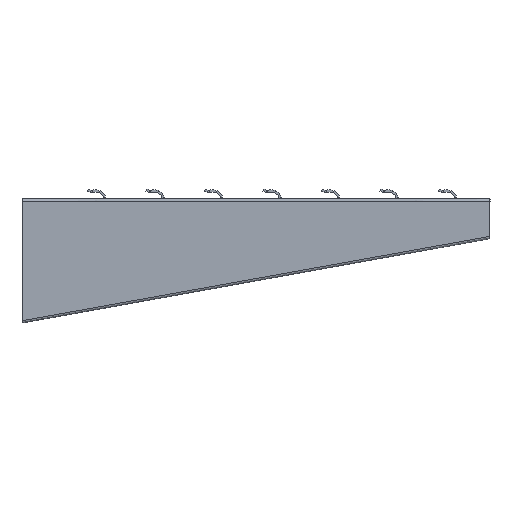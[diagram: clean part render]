
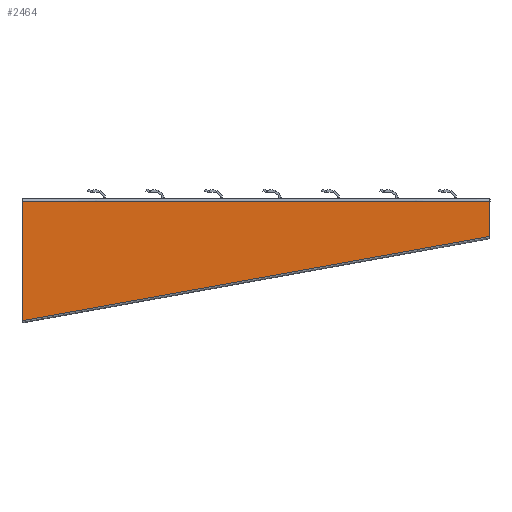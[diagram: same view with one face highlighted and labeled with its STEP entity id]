
A CAD part, left-side view. The second image highlights one B-rep face of the part: STEP entity #2464.
In plain terms, the highlighted planar face has unit normal (-1, 0, 0).
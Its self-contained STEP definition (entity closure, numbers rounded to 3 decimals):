
#135=(
BOUNDED_CURVE()
B_SPLINE_CURVE(3,(#7434,#7435,#7436,#7437),.UNSPECIFIED.,.F.,.F.)
B_SPLINE_CURVE_WITH_KNOTS((4,4),(0.,400.),.UNSPECIFIED.)
CURVE()
GEOMETRIC_REPRESENTATION_ITEM()
RATIONAL_B_SPLINE_CURVE((1.,1.,1.,1.))
REPRESENTATION_ITEM($)
);
#136=(
BOUNDED_CURVE()
B_SPLINE_CURVE(3,(#7438,#7439,#7440,#7441),.UNSPECIFIED.,.F.,.F.)
B_SPLINE_CURVE_WITH_KNOTS((4,4),(0.077,406.502),.UNSPECIFIED.)
CURVE()
GEOMETRIC_REPRESENTATION_ITEM()
RATIONAL_B_SPLINE_CURVE((1.,1.,1.,1.))
REPRESENTATION_ITEM($)
);
#2464=ADVANCED_FACE($,(#2652),#5944,.T.);
#2652=FACE_OUTER_BOUND($,#2840,.T.);
#2840=EDGE_LOOP($,(#3172,#3173,#3174,#3175));
#3172=ORIENTED_EDGE($,*,*,#4143,.T.);
#3173=ORIENTED_EDGE($,*,*,#4144,.T.);
#3174=ORIENTED_EDGE($,*,*,#4142,.T.);
#3175=ORIENTED_EDGE($,*,*,#4145,.T.);
#4142=EDGE_CURVE($,#5109,#5110,#6152,.T.);
#4143=EDGE_CURVE($,#5111,#5108,#6153,.T.);
#4144=EDGE_CURVE($,#5108,#5109,#135,.T.);
#4145=EDGE_CURVE($,#5110,#5111,#136,.T.);
#5108=VERTEX_POINT($,#7443);
#5109=VERTEX_POINT($,#7444);
#5110=VERTEX_POINT($,#7445);
#5111=VERTEX_POINT($,#7446);
#5944=PLANE($,#6588);
#6152=B_SPLINE_CURVE_WITH_KNOTS($,1,(#7430,#7431),.UNSPECIFIED.,.F.,.F.,
(2,2),(0.,1.),.UNSPECIFIED.);
#6153=B_SPLINE_CURVE_WITH_KNOTS($,1,(#7432,#7433),.UNSPECIFIED.,.F.,.F.,
(2,2),(0.,1.),.UNSPECIFIED.);
#6588=AXIS2_PLACEMENT_3D($,#7442,#6673,$);
#6673=DIRECTION($,(-1.,0.,0.));
#7430=CARTESIAN_POINT($,(-16.5,0.031,-2.));
#7431=CARTESIAN_POINT($,(-16.5,0.031,-103.98));
#7432=CARTESIAN_POINT($,(-16.5,-399.969,-32.));
#7433=CARTESIAN_POINT($,(-16.5,-399.969,-2.));
#7434=CARTESIAN_POINT($,(-16.5,-399.969,-2.));
#7435=CARTESIAN_POINT($,(-16.5,-266.636,-2.));
#7436=CARTESIAN_POINT($,(-16.5,-133.303,-2.));
#7437=CARTESIAN_POINT($,(-16.5,0.031,-2.));
#7438=CARTESIAN_POINT($,(-16.5,0.031,-103.98));
#7439=CARTESIAN_POINT($,(-16.5,-133.303,-79.987));
#7440=CARTESIAN_POINT($,(-16.5,-266.636,-55.993));
#7441=CARTESIAN_POINT($,(-16.5,-399.969,-32.));
#7442=CARTESIAN_POINT($,(-16.5,-399.969,-103.98));
#7443=CARTESIAN_POINT($,(-16.5,-399.969,-2.));
#7444=CARTESIAN_POINT($,(-16.5,0.031,-2.));
#7445=CARTESIAN_POINT($,(-16.5,0.031,-103.98));
#7446=CARTESIAN_POINT($,(-16.5,-399.969,-32.));
